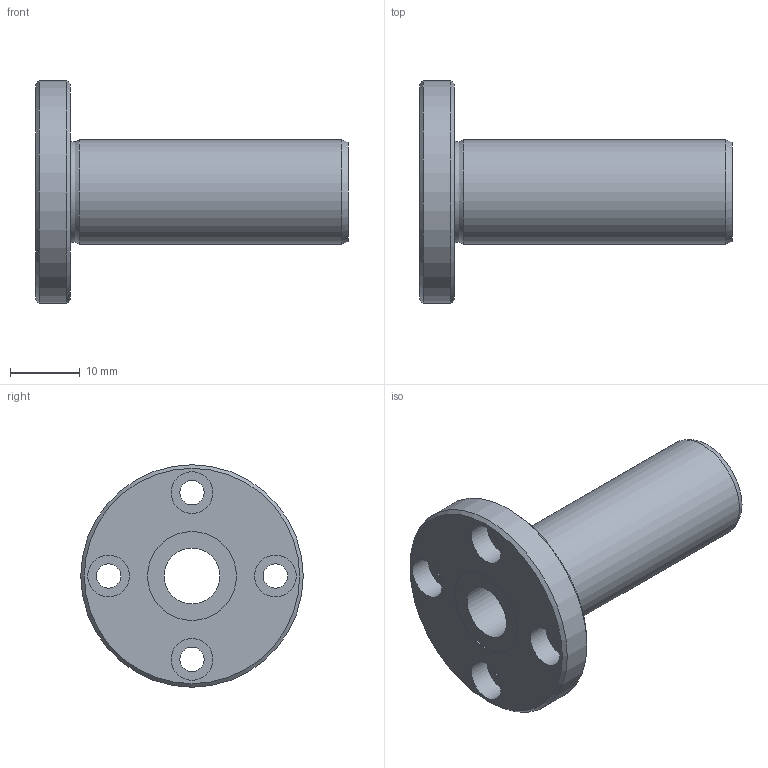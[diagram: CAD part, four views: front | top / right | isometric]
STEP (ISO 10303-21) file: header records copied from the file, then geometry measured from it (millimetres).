
FILE_DESCRIPTION((''),'2;1');
FILE_NAME('D:\製品 (図面)\カタログ用3D\リニアベアリング関連\STEP形式\LFD\LFD8.stp','2010-06-03T09:19:16',('Tsuchiya'),(''),'Autodesk Inventor 10','Autodesk Inventor 10','');
FILE_SCHEMA(('AUTOMOTIVE_DESIGN { 1 0 10303 214 1 1 1 1 }'));
Length unit declared in the file: millimetre
Products named in the file (1): LFD8
Bounding box: 45 x 32 x 32 mm (x, y, z)
Volume: 8333.9 mm3; surface area: 5208 mm2
Topology: 1 solids, 1 shells, 26 faces, 47 edges, 30 vertices
Faces by surface type: cylinder 13, plane 9, cone 2, torus 1, bspline 1
Full cylindrical faces by diameter (mm): 3.5 x4, 6 x4, 8 x1, 12.8 x2, 15 x1, 32 x1
Entity records: 665 total; most frequent: CARTESIAN_POINT 149, DIRECTION 112, ORIENTED_EDGE 60, EDGE_LOOP 60, AXIS2_PLACEMENT_3D 56, FACE_BOUND 34, VERTEX_POINT 30, CIRCLE 30
